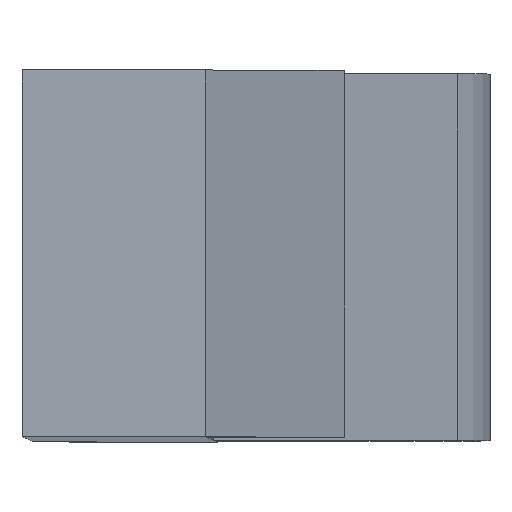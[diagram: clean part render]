
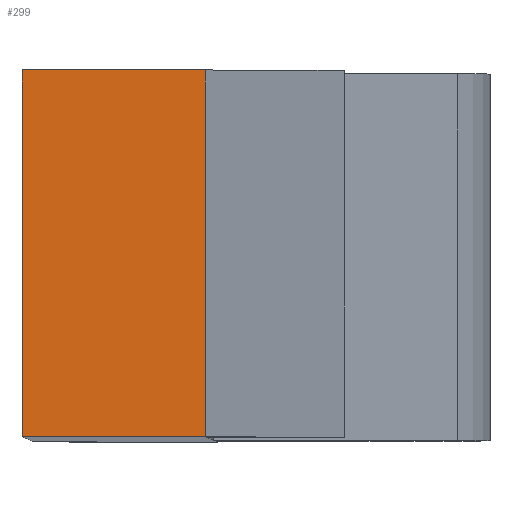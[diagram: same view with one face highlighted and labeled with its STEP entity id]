
A CAD part, top view. The second image highlights one B-rep face of the part: STEP entity #299.
In plain terms, the highlighted planar face has unit normal (-0.004, 0, 1) as drawn and (0, 0, 1) by its records, which use the part's own axes.
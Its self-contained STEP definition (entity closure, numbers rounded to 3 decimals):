
#31=PLANE('',#338);
#47=FACE_OUTER_BOUND('',#64,.T.);
#64=EDGE_LOOP('',(#254,#255,#256,#257));
#72=LINE('',#447,#103);
#97=LINE('',#504,#128);
#98=LINE('',#506,#129);
#99=LINE('',#507,#130);
#103=VECTOR('',#365,10.);
#128=VECTOR('',#416,10.);
#129=VECTOR('',#419,10.);
#130=VECTOR('',#420,10.);
#144=VERTEX_POINT('',#444);
#145=VERTEX_POINT('',#446);
#163=VERTEX_POINT('',#500);
#164=VERTEX_POINT('',#502);
#172=EDGE_CURVE('',#144,#145,#72,.T.);
#201=EDGE_CURVE('',#163,#164,#97,.T.);
#202=EDGE_CURVE('',#163,#144,#98,.T.);
#203=EDGE_CURVE('',#145,#164,#99,.T.);
#254=ORIENTED_EDGE('',*,*,#202,.F.);
#255=ORIENTED_EDGE('',*,*,#201,.T.);
#256=ORIENTED_EDGE('',*,*,#203,.F.);
#257=ORIENTED_EDGE('',*,*,#172,.F.);
#299=ADVANCED_FACE('',(#47),#31,.T.);
#338=AXIS2_PLACEMENT_3D('',#505,#417,#418);
#365=DIRECTION('',(0.,-1.,0.));
#416=DIRECTION('',(0.,-1.,0.));
#417=DIRECTION('center_axis',(0.,0.,1.));
#418=DIRECTION('ref_axis',(-1.,0.,0.));
#419=DIRECTION('',(1.,0.,0.));
#420=DIRECTION('',(-1.,0.,0.));
#444=CARTESIAN_POINT('',(-32.5,14.,32.5));
#446=CARTESIAN_POINT('',(-32.5,6.,32.5));
#447=CARTESIAN_POINT('',(-32.5,14.,32.5));
#500=CARTESIAN_POINT('',(-36.5,14.,32.5));
#502=CARTESIAN_POINT('',(-36.5,6.,32.5));
#504=CARTESIAN_POINT('',(-36.5,14.,32.5));
#505=CARTESIAN_POINT('Origin',(-32.5,14.,32.5));
#506=CARTESIAN_POINT('',(-36.5,14.,32.5));
#507=CARTESIAN_POINT('',(-36.5,6.,32.5));
